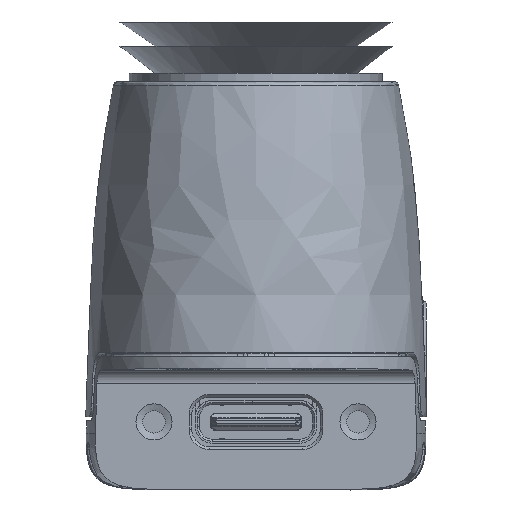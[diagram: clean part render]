
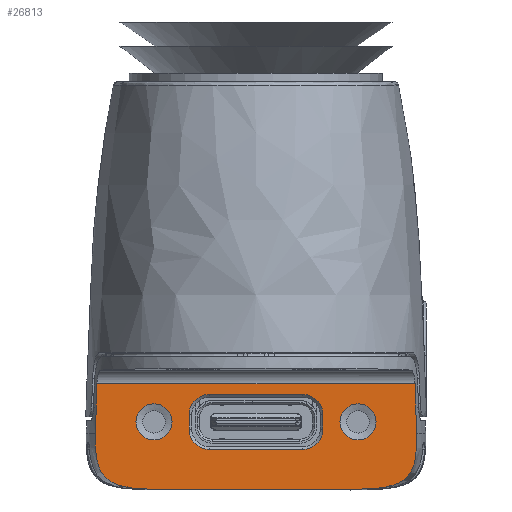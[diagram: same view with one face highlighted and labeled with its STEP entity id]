
A CAD part, left-side view. The second image highlights one B-rep face of the part: STEP entity #26813.
In plain terms, the highlighted planar face has unit normal (-1, 0, 0).
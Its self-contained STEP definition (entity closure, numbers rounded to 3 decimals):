
#583=FACE_BOUND('',#4395,.T.);
#584=FACE_BOUND('',#4396,.T.);
#585=FACE_BOUND('',#4397,.T.);
#1461=B_SPLINE_CURVE_WITH_KNOTS('',3,(#54090,#54091,#54092,#54093,#54094,
#54095),.UNSPECIFIED.,.F.,.F.,(4,2,4),(0.,0.191,
0.361),.UNSPECIFIED.);
#1465=B_SPLINE_CURVE_WITH_KNOTS('',3,(#54320,#54321,#54322,#54323,#54324,
#54325),.UNSPECIFIED.,.F.,.F.,(4,2,4),(0.,0.174,
0.369),.UNSPECIFIED.);
#1539=B_SPLINE_CURVE_WITH_KNOTS('',3,(#58670,#58671,#58672,#58673,#58674,
#58675,#58676,#58677,#58678,#58679,#58680,#58681,#58682,#58683),
 .UNSPECIFIED.,.F.,.F.,(4,2,2,2,2,2,4),(0.,0.252,
0.445,0.592,0.798,1.104,1.639),
 .UNSPECIFIED.);
#1540=B_SPLINE_CURVE_WITH_KNOTS('',3,(#58686,#58687,#58688,#58689,#58690,
#58691,#58692,#58693,#58694,#58695,#58696,#58697,#58698,#58699),
 .UNSPECIFIED.,.F.,.F.,(4,2,2,2,2,2,4),(-0.578,-0.505,
-0.443,-0.394,-0.32,-0.21,
0.),.UNSPECIFIED.);
#2783=FACE_OUTER_BOUND('',#4394,.T.);
#4394=EDGE_LOOP('',(#19059,#19060,#19061,#19062,#19063,#19064));
#4395=EDGE_LOOP('',(#19065,#19066,#19067,#19068,#19069,#19070,#19071,#19072));
#4396=EDGE_LOOP('',(#19073));
#4397=EDGE_LOOP('',(#19074));
#5984=LINE('',#58668,#7704);
#5985=LINE('',#58685,#7705);
#5986=LINE('',#58704,#7706);
#5987=LINE('',#58708,#7707);
#5988=LINE('',#58712,#7708);
#5989=LINE('',#58715,#7709);
#7704=VECTOR('',#32747,23.385);
#7705=VECTOR('',#32748,13.18);
#7706=VECTOR('',#32751,1.05);
#7707=VECTOR('',#32754,6.84);
#7708=VECTOR('',#32757,1.05);
#7709=VECTOR('',#32760,6.84);
#9328=CIRCLE('',#28796,1.325);
#9329=CIRCLE('',#28798,1.5);
#9330=CIRCLE('',#28799,1.5);
#9331=CIRCLE('',#28800,1.5);
#9332=CIRCLE('',#28801,1.5);
#9333=CIRCLE('',#28802,1.325);
#10826=VERTEX_POINT('',#54075);
#10827=VERTEX_POINT('',#54089);
#10830=VERTEX_POINT('',#54300);
#10831=VERTEX_POINT('',#54319);
#10928=VERTEX_POINT('',#58664);
#10929=VERTEX_POINT('',#58669);
#10930=VERTEX_POINT('',#58684);
#10931=VERTEX_POINT('',#58700);
#10932=VERTEX_POINT('',#58701);
#10933=VERTEX_POINT('',#58703);
#10934=VERTEX_POINT('',#58705);
#10935=VERTEX_POINT('',#58707);
#10936=VERTEX_POINT('',#58709);
#10937=VERTEX_POINT('',#58711);
#10938=VERTEX_POINT('',#58713);
#10939=VERTEX_POINT('',#58716);
#13637=EDGE_CURVE('',#10827,#10826,#1461,.T.);
#13641=EDGE_CURVE('',#10831,#10830,#1465,.T.);
#13831=EDGE_CURVE('',#10928,#10928,#9328,.T.);
#13832=EDGE_CURVE('',#10830,#10827,#5984,.T.);
#13833=EDGE_CURVE('',#10929,#10826,#1539,.T.);
#13834=EDGE_CURVE('',#10930,#10929,#5985,.T.);
#13835=EDGE_CURVE('',#10930,#10831,#1540,.T.);
#13836=EDGE_CURVE('',#10931,#10932,#9329,.T.);
#13837=EDGE_CURVE('',#10931,#10933,#5986,.T.);
#13838=EDGE_CURVE('',#10934,#10933,#9330,.T.);
#13839=EDGE_CURVE('',#10934,#10935,#5987,.T.);
#13840=EDGE_CURVE('',#10936,#10935,#9331,.T.);
#13841=EDGE_CURVE('',#10936,#10937,#5988,.T.);
#13842=EDGE_CURVE('',#10938,#10937,#9332,.T.);
#13843=EDGE_CURVE('',#10938,#10932,#5989,.T.);
#13844=EDGE_CURVE('',#10939,#10939,#9333,.T.);
#19059=ORIENTED_EDGE('',*,*,#13832,.T.);
#19060=ORIENTED_EDGE('',*,*,#13637,.T.);
#19061=ORIENTED_EDGE('',*,*,#13833,.F.);
#19062=ORIENTED_EDGE('',*,*,#13834,.F.);
#19063=ORIENTED_EDGE('',*,*,#13835,.T.);
#19064=ORIENTED_EDGE('',*,*,#13641,.T.);
#19065=ORIENTED_EDGE('',*,*,#13836,.F.);
#19066=ORIENTED_EDGE('',*,*,#13837,.T.);
#19067=ORIENTED_EDGE('',*,*,#13838,.F.);
#19068=ORIENTED_EDGE('',*,*,#13839,.T.);
#19069=ORIENTED_EDGE('',*,*,#13840,.F.);
#19070=ORIENTED_EDGE('',*,*,#13841,.T.);
#19071=ORIENTED_EDGE('',*,*,#13842,.F.);
#19072=ORIENTED_EDGE('',*,*,#13843,.T.);
#19073=ORIENTED_EDGE('',*,*,#13831,.F.);
#19074=ORIENTED_EDGE('',*,*,#13844,.F.);
#24334=PLANE('',#28797);
#26813=ADVANCED_FACE('',(#2783,#583,#584,#585),#24334,.F.);
#28796=AXIS2_PLACEMENT_3D('',#58666,#32743,#32744);
#28797=AXIS2_PLACEMENT_3D('',#58667,#32745,#32746);
#28798=AXIS2_PLACEMENT_3D('',#58702,#32749,#32750);
#28799=AXIS2_PLACEMENT_3D('',#58706,#32752,#32753);
#28800=AXIS2_PLACEMENT_3D('',#58710,#32755,#32756);
#28801=AXIS2_PLACEMENT_3D('',#58714,#32758,#32759);
#28802=AXIS2_PLACEMENT_3D('',#58717,#32761,#32762);
#32743=DIRECTION('center_axis',(-1.,0.,0.));
#32744=DIRECTION('ref_axis',(0.,1.,0.));
#32745=DIRECTION('center_axis',(1.,0.,0.));
#32746=DIRECTION('ref_axis',(0.,0.,-1.));
#32747=DIRECTION('',(0.,1.,0.));
#32748=DIRECTION('',(0.,1.,0.));
#32749=DIRECTION('center_axis',(-1.,0.,0.));
#32750=DIRECTION('ref_axis',(0.,1.,0.));
#32751=DIRECTION('',(0.,0.,1.));
#32752=DIRECTION('center_axis',(-1.,0.,0.));
#32753=DIRECTION('ref_axis',(0.,0.,1.));
#32754=DIRECTION('',(0.,-1.,0.));
#32755=DIRECTION('center_axis',(-1.,0.,0.));
#32756=DIRECTION('ref_axis',(0.,-1.,0.));
#32757=DIRECTION('',(0.,0.,-1.));
#32758=DIRECTION('center_axis',(-1.,0.,0.));
#32759=DIRECTION('ref_axis',(0.,0.,-1.));
#32760=DIRECTION('',(0.,1.,0.));
#32761=DIRECTION('center_axis',(-1.,0.,0.));
#32762=DIRECTION('ref_axis',(0.,1.,0.));
#54075=CARTESIAN_POINT('',(-35.2,11.806,-14.495));
#54089=CARTESIAN_POINT('',(-35.2,11.693,-10.833));
#54090=CARTESIAN_POINT('Ctrl Pts',(-35.2,11.693,-10.833));
#54091=CARTESIAN_POINT('Ctrl Pts',(-35.2,11.712,-11.469));
#54092=CARTESIAN_POINT('Ctrl Pts',(-35.2,11.733,-12.128));
#54093=CARTESIAN_POINT('Ctrl Pts',(-35.2,11.767,-13.261));
#54094=CARTESIAN_POINT('Ctrl Pts',(-35.2,11.787,-13.915));
#54095=CARTESIAN_POINT('Ctrl Pts',(-35.2,11.806,-14.495));
#54300=CARTESIAN_POINT('',(-35.2,-11.693,-10.833));
#54319=CARTESIAN_POINT('',(-35.2,-11.806,-14.495));
#54320=CARTESIAN_POINT('Ctrl Pts',(-35.2,-11.806,-14.495));
#54321=CARTESIAN_POINT('Ctrl Pts',(-35.2,-11.787,-13.915));
#54322=CARTESIAN_POINT('Ctrl Pts',(-35.2,-11.767,
-13.262));
#54323=CARTESIAN_POINT('Ctrl Pts',(-35.2,-11.733,
-12.128));
#54324=CARTESIAN_POINT('Ctrl Pts',(-35.2,-11.712,-11.469));
#54325=CARTESIAN_POINT('Ctrl Pts',(-35.2,-11.693,-10.833));
#58664=CARTESIAN_POINT('',(-35.2,7.5,-12.32));
#58666=CARTESIAN_POINT('Origin',(-35.2,7.5,-13.645));
#58667=CARTESIAN_POINT('Origin',(-35.2,-20.,-9.65));
#58668=CARTESIAN_POINT('',(-35.2,-11.693,-10.833));
#58669=CARTESIAN_POINT('',(-35.2,6.59,-18.65));
#58670=CARTESIAN_POINT('Ctrl Pts',(-35.2,6.59,-18.65));
#58671=CARTESIAN_POINT('Ctrl Pts',(-35.2,7.43,-18.65));
#58672=CARTESIAN_POINT('Ctrl Pts',(-35.2,8.197,-18.624));
#58673=CARTESIAN_POINT('Ctrl Pts',(-35.2,9.369,-18.484));
#58674=CARTESIAN_POINT('Ctrl Pts',(-35.2,9.839,-18.391));
#58675=CARTESIAN_POINT('Ctrl Pts',(-35.2,10.549,-18.115));
#58676=CARTESIAN_POINT('Ctrl Pts',(-35.2,10.772,-17.977));
#58677=CARTESIAN_POINT('Ctrl Pts',(-35.2,11.185,-17.627));
#58678=CARTESIAN_POINT('Ctrl Pts',(-35.2,11.332,-17.405));
#58679=CARTESIAN_POINT('Ctrl Pts',(-35.2,11.573,-16.937));
#58680=CARTESIAN_POINT('Ctrl Pts',(-35.2,11.661,-16.624));
#58681=CARTESIAN_POINT('Ctrl Pts',(-35.2,11.812,-15.772));
#58682=CARTESIAN_POINT('Ctrl Pts',(-35.2,11.826,-15.141));
#58683=CARTESIAN_POINT('Ctrl Pts',(-35.2,11.806,-14.495));
#58684=CARTESIAN_POINT('',(-35.2,-6.59,-18.65));
#58685=CARTESIAN_POINT('',(-35.2,-6.59,-18.65));
#58686=CARTESIAN_POINT('Ctrl Pts',(-35.2,-6.59,-18.65));
#58687=CARTESIAN_POINT('Ctrl Pts',(-35.2,-7.247,-18.65));
#58688=CARTESIAN_POINT('Ctrl Pts',(-35.2,-7.999,
-18.633));
#58689=CARTESIAN_POINT('Ctrl Pts',(-35.2,-9.234,
-18.508));
#58690=CARTESIAN_POINT('Ctrl Pts',(-35.2,-9.737,
-18.417));
#58691=CARTESIAN_POINT('Ctrl Pts',(-35.2,-10.493,
-18.145));
#58692=CARTESIAN_POINT('Ctrl Pts',(-35.2,-10.722,
-18.008));
#58693=CARTESIAN_POINT('Ctrl Pts',(-35.2,-11.147,
-17.672));
#58694=CARTESIAN_POINT('Ctrl Pts',(-35.2,-11.3,-17.453));
#58695=CARTESIAN_POINT('Ctrl Pts',(-35.2,-11.542,-17.015));
#58696=CARTESIAN_POINT('Ctrl Pts',(-35.2,-11.634,
-16.721));
#58697=CARTESIAN_POINT('Ctrl Pts',(-35.2,-11.809,
-15.864));
#58698=CARTESIAN_POINT('Ctrl Pts',(-35.2,-11.828,-15.196));
#58699=CARTESIAN_POINT('Ctrl Pts',(-35.2,-11.806,-14.495));
#58700=CARTESIAN_POINT('',(-35.2,4.92,-14.17));
#58701=CARTESIAN_POINT('',(-35.2,3.42,-15.67));
#58702=CARTESIAN_POINT('Origin',(-35.2,3.42,-14.17));
#58703=CARTESIAN_POINT('',(-35.2,4.92,-13.12));
#58704=CARTESIAN_POINT('',(-35.2,4.92,-14.17));
#58705=CARTESIAN_POINT('',(-35.2,3.42,-11.62));
#58706=CARTESIAN_POINT('Origin',(-35.2,3.42,-13.12));
#58707=CARTESIAN_POINT('',(-35.2,-3.42,-11.62));
#58708=CARTESIAN_POINT('',(-35.2,3.42,-11.62));
#58709=CARTESIAN_POINT('',(-35.2,-4.92,-13.12));
#58710=CARTESIAN_POINT('Origin',(-35.2,-3.42,-13.12));
#58711=CARTESIAN_POINT('',(-35.2,-4.92,-14.17));
#58712=CARTESIAN_POINT('',(-35.2,-4.92,-13.12));
#58713=CARTESIAN_POINT('',(-35.2,-3.42,-15.67));
#58714=CARTESIAN_POINT('Origin',(-35.2,-3.42,-14.17));
#58715=CARTESIAN_POINT('',(-35.2,-3.42,-15.67));
#58716=CARTESIAN_POINT('',(-35.2,-7.5,-12.32));
#58717=CARTESIAN_POINT('Origin',(-35.2,-7.5,-13.645));
